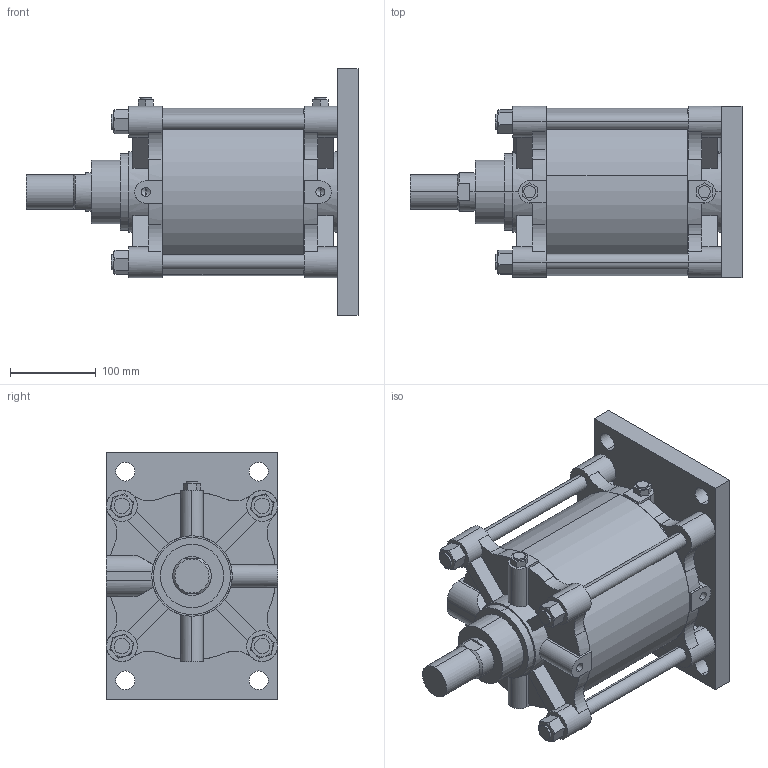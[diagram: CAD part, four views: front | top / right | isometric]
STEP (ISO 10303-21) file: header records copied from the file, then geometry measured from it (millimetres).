
FILE_DESCRIPTION (( 'STEP AP203' ), '1' );
FILE_NAME ('A##2-180#-100-B.STEP', '2016-03-31T06:57:52', ( '' ), ( '' ), 'SwSTEP 2.0', 'SolidWorks 2014', '' );
FILE_SCHEMA (( 'CONFIG_CONTROL_DESIGN' ));
Length unit declared in the file: millimetre
Products named in the file (7): A180-AB; A180-B; A##2-180#-100-B; A180-100; A180-A
Assembly tree (12 placements, depth 2):
  A##2-180#-100-B
    A180-B
    A180-100
    A180-A
    (unnamed)  x4
    (unnamed)  x4
    A180-AB
Bounding box: 388 x 200 x 288 mm (x, y, z)
Volume: 8648569.3 mm3; surface area: 657539.8 mm2
Topology: 12 solids, 14 shells, 344 faces, 888 edges, 572 vertices
Faces by surface type: plane 172, cylinder 134, torus 24, cone 14
Entity records: 10337 total; most frequent: CARTESIAN_POINT 2057, DIRECTION 1640, ORIENTED_EDGE 1500, EDGE_CURVE 750, AXIS2_PLACEMENT_3D 627, VERTEX_POINT 494, LINE 386, VECTOR 386
